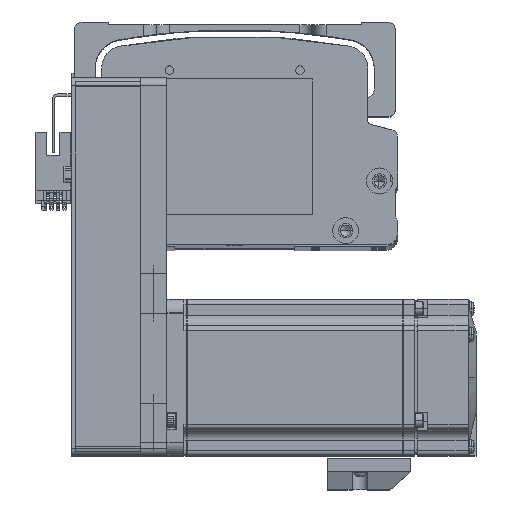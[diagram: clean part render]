
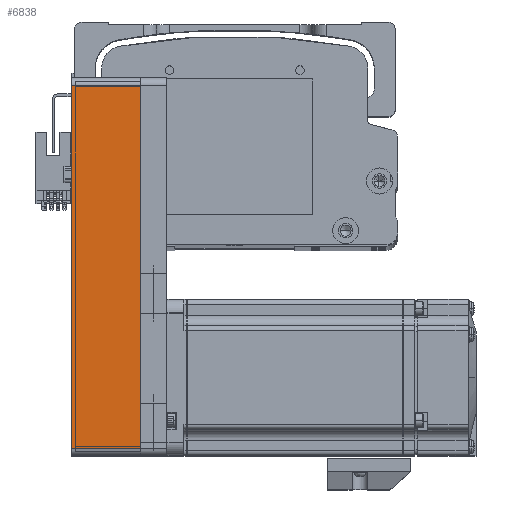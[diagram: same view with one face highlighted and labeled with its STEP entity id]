
A CAD part, top view. The second image highlights one B-rep face of the part: STEP entity #6838.
In plain terms, the highlighted planar face has unit normal (0, 0, 1) as drawn and (0, 1, 0) by its records, which use the part's own axes.
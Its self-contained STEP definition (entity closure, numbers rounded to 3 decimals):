
#930 = EDGE_CURVE ( 'NONE', #9692, #12247, #48678, .T. ) ;
#3048 = VECTOR ( 'NONE', #33861, 1000. ) ;
#3158 = CARTESIAN_POINT ( 'NONE',  ( -69.5, 30., 26.5 ) ) ;
#4272 = LINE ( 'NONE', #46298, #36892 ) ;
#5030 = CARTESIAN_POINT ( 'NONE',  ( 69.5, 30., 26.5 ) ) ;
#6838 = ADVANCED_FACE ( 'NONE', ( #29957 ), #22684, .F. ) ;
#7044 = DIRECTION ( 'NONE',  ( 0., 0., 1. ) ) ;
#9110 = ORIENTED_EDGE ( 'NONE', *, *, #64113, .F. ) ;
#9692 = VERTEX_POINT ( 'NONE', #17545 ) ;
#10067 = DIRECTION ( 'NONE',  ( 0., -1., 0. ) ) ;
#10786 = AXIS2_PLACEMENT_3D ( 'NONE', #49068, #10067, #55568 ) ;
#11586 = DIRECTION ( 'NONE',  ( 0., 0., -1. ) ) ;
#12247 = VERTEX_POINT ( 'NONE', #56567 ) ;
#13997 = ORIENTED_EDGE ( 'NONE', *, *, #83292, .T. ) ;
#17545 = CARTESIAN_POINT ( 'NONE',  ( 69.5, 30., 0. ) ) ;
#22684 = PLANE ( 'NONE',  #10786 ) ;
#29957 = FACE_OUTER_BOUND ( 'NONE', #62904, .T. ) ;
#31457 = VECTOR ( 'NONE', #43296, 1000. ) ;
#31911 = VERTEX_POINT ( 'NONE', #3158 ) ;
#33861 = DIRECTION ( 'NONE',  ( -1., 0., 0. ) ) ;
#36892 = VECTOR ( 'NONE', #7044, 1000. ) ;
#43296 = DIRECTION ( 'NONE',  ( -1., 0., 0. ) ) ;
#43423 = VERTEX_POINT ( 'NONE', #69878 ) ;
#46298 = CARTESIAN_POINT ( 'NONE',  ( -69.5, 30., 26.5 ) ) ;
#48678 = LINE ( 'NONE', #75650, #31457 ) ;
#49068 = CARTESIAN_POINT ( 'NONE',  ( 72.5, 30., 26.5 ) ) ;
#52974 = ORIENTED_EDGE ( 'NONE', *, *, #930, .T. ) ;
#55568 = DIRECTION ( 'NONE',  ( 1., 0., 0. ) ) ;
#55689 = EDGE_CURVE ( 'NONE', #43423, #9692, #76438, .T. ) ;
#56567 = CARTESIAN_POINT ( 'NONE',  ( -69.5, 30., 0. ) ) ;
#56997 = LINE ( 'NONE', #72726, #3048 ) ;
#59161 = VECTOR ( 'NONE', #11586, 1000. ) ;
#62904 = EDGE_LOOP ( 'NONE', ( #52974, #13997, #9110, #76357 ) ) ;
#64113 = EDGE_CURVE ( 'NONE', #43423, #31911, #56997, .T. ) ;
#69878 = CARTESIAN_POINT ( 'NONE',  ( 69.5, 30., 26.5 ) ) ;
#72726 = CARTESIAN_POINT ( 'NONE',  ( 72.5, 30., 26.5 ) ) ;
#75650 = CARTESIAN_POINT ( 'NONE',  ( 72.5, 30., 0. ) ) ;
#76357 = ORIENTED_EDGE ( 'NONE', *, *, #55689, .T. ) ;
#76438 = LINE ( 'NONE', #5030, #59161 ) ;
#83292 = EDGE_CURVE ( 'NONE', #12247, #31911, #4272, .T. ) ;
